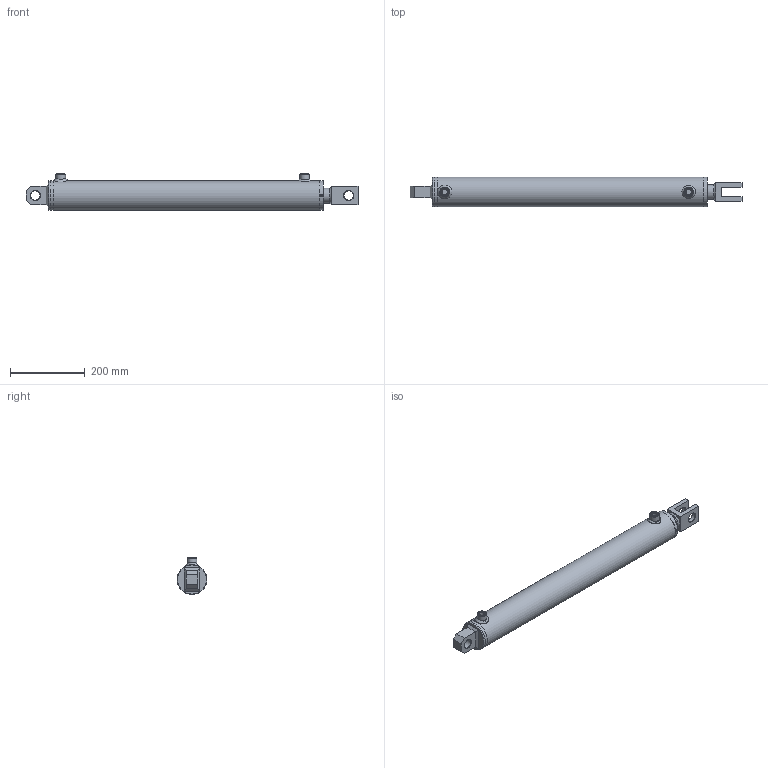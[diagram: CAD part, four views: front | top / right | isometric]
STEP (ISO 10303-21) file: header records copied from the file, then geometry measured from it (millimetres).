
FILE_DESCRIPTION( ( 'Unknown' ), '1' );
FILE_NAME( 'E:/LIBRERIA_3d/CILINDRI/HM5/HM54400600.stp', 'Unknown', ( 'Unknown' ), ( 'Unknown' ), 'PSStep 17.0.49', 'Unknown', ' ' );
FILE_SCHEMA( ( 'AUTOMOTIVE_DESIGN { 1 0 10303 214 1 1 1 1 }' ) );
Length unit declared in the file: millimetre
Products named in the file (28): CG08007040; STL4500600-oa4; Saldatura d'angolo 1-oa2; FTM4500600-oa3; CBSC220600; CT00070027; HM04400600; Saldatura con preparazione 1-oa0; Saldatura d'angolo 1-oa1; CF00070080; CBS0600000; CDB0002720; APG0600000; SBL4040600; Assem1; CFS0000025; COF2500000; Saldatura d'angolo 1-oa5; Saldatura con preparazione 1-oa6; Saldatura d'angolo 2-oa7
Assembly tree (20 placements, depth 4):
  Saldatura d'angolo 1-oa2
  Saldatura d'angolo 1-oa2
  Saldatura d'angolo 1-oa1
  Saldatura d'angolo 1-oa1
  Assem1
    CFS0000025
    COF2500000
    Saldatura con preparazione 1-oa6
    Saldatura con preparazione 1-oa6
    HM04400600
      Saldatura con preparazione 1-oa0
      Saldatura con preparazione 1-oa0
      CF00070080
      CBS0600000
      CDB0002720
      APG0600000  x2
      SBL4040600
      CG08007040
        CG08007040
      CT00070027
        CT00070027
      STL4500600-oa4
        FTM4500600-oa3
        CBSC220600
Bounding box: 890 x 80 x 99 mm (x, y, z)
Volume: 2238894 mm3; surface area: 579231.3 mm2
Topology: 24 solids, 24 shells, 259 faces, 546 edges, 342 vertices
Faces by surface type: plane 98, cylinder 66, cone 46, torus 37, bspline 12
Full cylindrical faces by diameter (mm): 4.25 x3, 5 x2, 6 x2, 7 x2, 14.95 x2, 16 x2, 16.6 x2, 22 x2, 25.25 x3, 26 x2, 26.4 x1, 27 x5, 33.2 x1, 40 x8, 41 x1, 42 x1, 43 x1, 48.6 x1, 50 x2, 64.18 x2, 65 x1, 68.34 x2, 69.9 x1, 70 x1, 70.3 x1, 70.5 x1, 70.6 x1, 71 x1, 72 x3, 72.5 x1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
Entity records: 11362 total; most frequent: CARTESIAN_POINT 4536, DIRECTION 1032, ORIENTED_EDGE 642, AXIS2_PLACEMENT_3D 462, EDGE_LOOP 452, FACE_OUTER_BOUND 356, EDGE_CURVE 321, VERTEX_POINT 282
